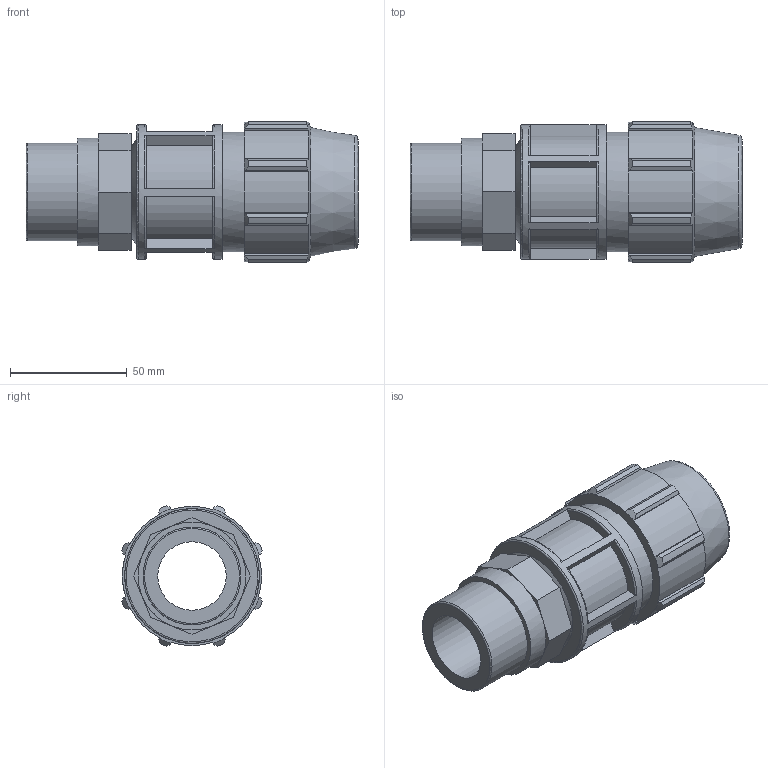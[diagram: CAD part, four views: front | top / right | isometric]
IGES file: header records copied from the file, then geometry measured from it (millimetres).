
Global section: file name: 077200032013_187200032013_0772060320130A.ipt; native system: Autodesk Inventor 2015; preprocessor: unknown; author: KIM; date: 20170606.174232; units: millimetre
Bounding box: 142 x 60.22 x 60.22 mm (x, y, z)
Volume: 180659.8 mm3; surface area: 46227.4 mm2
Topology: 1 solids, 1 shells, 137 faces, 368 edges, 245 vertices
Faces by surface type: plane 81, cylinder 26, revolution 19, cone 11
Full cylindrical faces by diameter (mm): 41.91 x1, 46.101 x1, 51.2 x1, 57.6 x1
